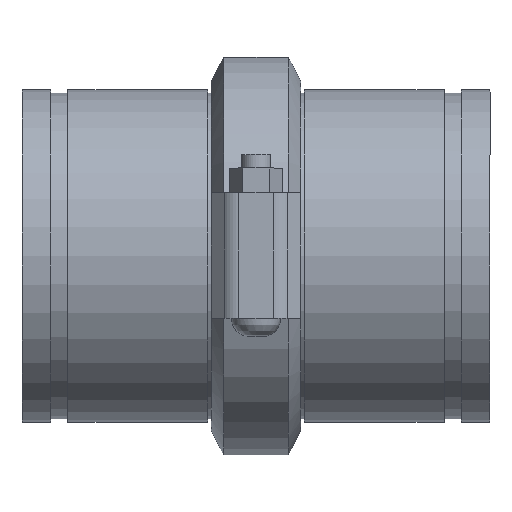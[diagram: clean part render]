
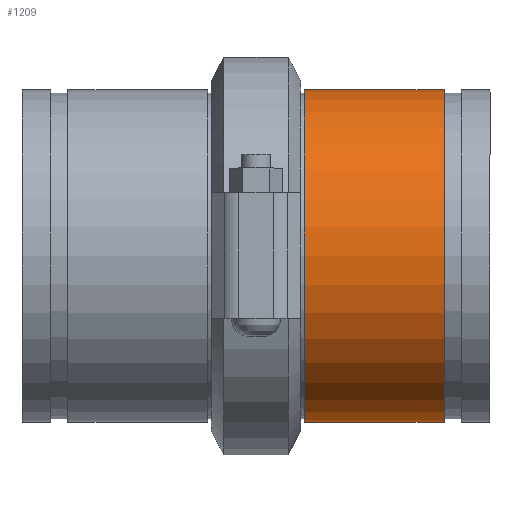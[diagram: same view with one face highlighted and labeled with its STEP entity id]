
A CAD part, top view. The second image highlights one B-rep face of the part: STEP entity #1209.
In plain terms, the highlighted cylindrical face has radius 109.537 mm (diameter 219.075 mm), a full revolution.
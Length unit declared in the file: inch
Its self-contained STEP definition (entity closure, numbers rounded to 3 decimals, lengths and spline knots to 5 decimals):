
#48=LINE('',#1911,#135);
#135=VECTOR('',#1552,4.3125);
#222=CYLINDRICAL_SURFACE('',#1377,4.3125);
#267=FACE_OUTER_BOUND('',#340,.T.);
#340=EDGE_LOOP('',(#797,#798,#799,#800,#801,#802));
#432=CIRCLE('',#1375,4.3125);
#433=CIRCLE('',#1376,4.3125);
#434=CIRCLE('',#1378,4.3125);
#435=CIRCLE('',#1379,4.3125);
#500=VERTEX_POINT('',#1902);
#501=VERTEX_POINT('',#1903);
#502=VERTEX_POINT('',#1907);
#503=VERTEX_POINT('',#1908);
#617=EDGE_CURVE('',#500,#501,#432,.T.);
#618=EDGE_CURVE('',#501,#500,#433,.T.);
#619=EDGE_CURVE('',#502,#503,#434,.T.);
#620=EDGE_CURVE('',#503,#502,#435,.T.);
#621=EDGE_CURVE('',#503,#501,#48,.T.);
#797=ORIENTED_EDGE('',*,*,#619,.F.);
#798=ORIENTED_EDGE('',*,*,#620,.F.);
#799=ORIENTED_EDGE('',*,*,#621,.T.);
#800=ORIENTED_EDGE('',*,*,#618,.T.);
#801=ORIENTED_EDGE('',*,*,#617,.T.);
#802=ORIENTED_EDGE('',*,*,#621,.F.);
#1209=ADVANCED_FACE('',(#267),#222,.T.);
#1375=AXIS2_PLACEMENT_3D('',#1904,#1542,#1543);
#1376=AXIS2_PLACEMENT_3D('',#1905,#1544,#1545);
#1377=AXIS2_PLACEMENT_3D('',#1906,#1546,#1547);
#1378=AXIS2_PLACEMENT_3D('',#1909,#1548,#1549);
#1379=AXIS2_PLACEMENT_3D('',#1910,#1550,#1551);
#1542=DIRECTION('center_axis',(-1.,0.,0.));
#1543=DIRECTION('ref_axis',(0.,0.,1.));
#1544=DIRECTION('center_axis',(-1.,0.,0.));
#1545=DIRECTION('ref_axis',(0.,0.,1.));
#1546=DIRECTION('center_axis',(-1.,0.,0.));
#1547=DIRECTION('ref_axis',(0.,1.,0.));
#1548=DIRECTION('center_axis',(-1.,0.,0.));
#1549=DIRECTION('ref_axis',(0.,0.,1.));
#1550=DIRECTION('center_axis',(-1.,0.,0.));
#1551=DIRECTION('ref_axis',(0.,0.,1.));
#1552=DIRECTION('',(1.,0.,0.));
#1902=CARTESIAN_POINT('',(1.812,4.3125,0.));
#1903=CARTESIAN_POINT('',(1.812,-4.3125,0.));
#1904=CARTESIAN_POINT('Origin',(1.812,0.,0.));
#1905=CARTESIAN_POINT('Origin',(1.812,0.,0.));
#1906=CARTESIAN_POINT('Origin',(0.,0.,
0.));
#1907=CARTESIAN_POINT('',(-1.812,4.3125,0.));
#1908=CARTESIAN_POINT('',(-1.812,-4.3125,0.));
#1909=CARTESIAN_POINT('Origin',(-1.812,0.,0.));
#1910=CARTESIAN_POINT('Origin',(-1.812,0.,0.));
#1911=CARTESIAN_POINT('',(0.,-4.3125,0.));
